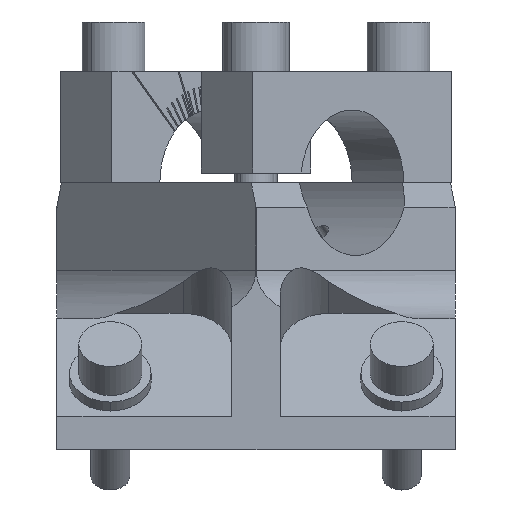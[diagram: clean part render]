
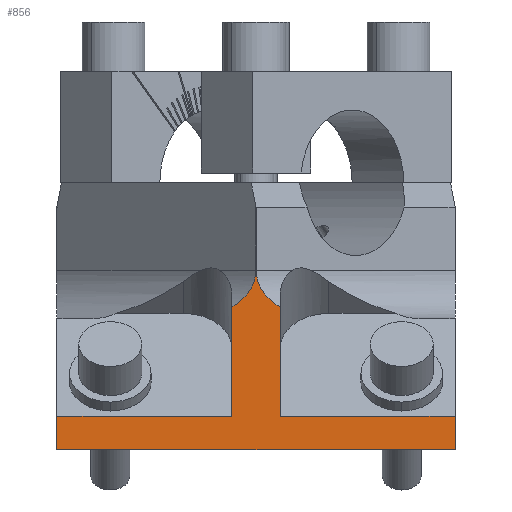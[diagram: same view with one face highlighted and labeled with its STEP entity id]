
A CAD part, left-side view. The second image highlights one B-rep face of the part: STEP entity #856.
In plain terms, the highlighted planar face has unit normal (-1, 0, 0).
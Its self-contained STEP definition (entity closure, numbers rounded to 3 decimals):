
#856=ADVANCED_FACE('Pad.1',(#2033),#2034,.T.);
#2033=FACE_OUTER_BOUND('',#3643,.T.);
#2034=PLANE('',#3644);
#3643=EDGE_LOOP('',(#5792,#5793,#5794,#5795,#5796,#5797,#5798,#5799,#5800,#5801,#5802,#5803,#5804));
#3644=AXIS2_PLACEMENT_3D('',#5805,#5806,#5807);
#5792=ORIENTED_EDGE('',*,*,#9695,.F.);
#5793=ORIENTED_EDGE('',*,*,#9696,.T.);
#5794=ORIENTED_EDGE('',*,*,#9551,.T.);
#5795=ORIENTED_EDGE('',*,*,#9697,.F.);
#5796=ORIENTED_EDGE('',*,*,#9698,.F.);
#5797=ORIENTED_EDGE('',*,*,#9630,.T.);
#5798=ORIENTED_EDGE('',*,*,#9693,.T.);
#5799=ORIENTED_EDGE('',*,*,#9644,.F.);
#5800=ORIENTED_EDGE('',*,*,#9699,.F.);
#5801=ORIENTED_EDGE('',*,*,#9700,.T.);
#5802=ORIENTED_EDGE('',*,*,#9544,.F.);
#5803=ORIENTED_EDGE('',*,*,#9701,.F.);
#5804=ORIENTED_EDGE('',*,*,#9702,.F.);
#5805=CARTESIAN_POINT('',(-39.646,42.311,-16.118));
#5806=DIRECTION('',(-1.0,0.,0.0));
#5807=DIRECTION('',(0.0,0.0,-1.0));
#9544=EDGE_CURVE('',#11422,#11425,#11426,.T.);
#9551=EDGE_CURVE('',#11432,#11436,#11438,.T.);
#9630=EDGE_CURVE('',#11574,#11572,#11575,.T.);
#9644=EDGE_CURVE('',#11594,#11596,#11597,.T.);
#9693=EDGE_CURVE('',#11572,#11596,#11667,.T.);
#9695=EDGE_CURVE('',#11669,#11670,#11671,.T.);
#9696=EDGE_CURVE('',#11669,#11432,#11672,.T.);
#9697=EDGE_CURVE('',#11673,#11436,#11674,.T.);
#9698=EDGE_CURVE('',#11574,#11673,#11675,.T.);
#9699=EDGE_CURVE('',#11676,#11594,#11677,.T.);
#9700=EDGE_CURVE('',#11676,#11425,#11678,.T.);
#9701=EDGE_CURVE('',#11679,#11422,#11680,.T.);
#9702=EDGE_CURVE('',#11670,#11679,#11681,.T.);
#11422=VERTEX_POINT('',#14412);
#11425=VERTEX_POINT('',#14416);
#11426=B_SPLINE_CURVE_WITH_KNOTS('',5,(#14417,#14418,#14419,#14420,#14421,#14422,#14423,#14424,#14425,#14426,#14427,#14428),.UNSPECIFIED.,.F.,.F.,(6,3,3,6),(0.0,4.5,8.13,13.484),.UNSPECIFIED.);
#11432=VERTEX_POINT('',#14453);
#11436=VERTEX_POINT('',#14469);
#11438=B_SPLINE_CURVE_WITH_KNOTS('',5,(#14479,#14480,#14481,#14482,#14483,#14484,#14485,#14486,#14487,#14488,#14489,#14490),.UNSPECIFIED.,.F.,.F.,(6,3,3,6),(0.0,4.501,8.131,13.476),.UNSPECIFIED.);
#11572=VERTEX_POINT('',#14911);
#11574=VERTEX_POINT('',#14914);
#11575=LINE('',#14915,#14916);
#11594=VERTEX_POINT('',#14961);
#11596=VERTEX_POINT('',#14964);
#11597=LINE('',#14965,#14966);
#11667=LINE('',#15087,#15088);
#11669=VERTEX_POINT('',#15090);
#11670=VERTEX_POINT('',#15091);
#11671=LINE('',#15092,#15093);
#11672=LINE('',#15094,#15095);
#11673=VERTEX_POINT('',#15096);
#11674=LINE('',#15097,#15098);
#11675=LINE('',#15099,#15100);
#11676=VERTEX_POINT('',#15101);
#11677=LINE('',#15102,#15103);
#11678=LINE('',#15104,#15105);
#11679=VERTEX_POINT('',#15106);
#11680=B_SPLINE_CURVE_WITH_KNOTS('',5,(#15107,#15108,#15109,#15110,#15111,#15112,#15113,#15114,#15115,#15116,#15117,#15118),.UNSPECIFIED.,.F.,.F.,(6,3,3,6),(0.0,4.5,8.13,13.484),.UNSPECIFIED.);
#11681=LINE('',#15119,#15120);
#14412=CARTESIAN_POINT('',(-39.646,1.298,14.));
#14416=CARTESIAN_POINT('',(-39.646,-3.689,6.378));
#14417=CARTESIAN_POINT('',(-39.646,1.298,14.006));
#14418=CARTESIAN_POINT('',(-39.646,1.299,13.369));
#14419=CARTESIAN_POINT('',(-39.646,1.228,12.733));
#14420=CARTESIAN_POINT('',(-39.646,1.085,12.108));
#14421=CARTESIAN_POINT('',(-39.646,0.71,11.015));
#14422=CARTESIAN_POINT('',(-39.646,0.149,10.007));
#14423=CARTESIAN_POINT('',(-39.646,-0.134,9.577));
#14424=CARTESIAN_POINT('',(-39.646,-0.905,8.564));
#14425=CARTESIAN_POINT('',(-39.646,-1.826,7.681));
#14426=CARTESIAN_POINT('',(-39.646,-2.417,7.201));
#14427=CARTESIAN_POINT('',(-39.646,-3.04,6.768));
#14428=CARTESIAN_POINT('',(-39.646,-3.689,6.378));
#14453=CARTESIAN_POINT('',(-39.646,1.323,14.));
#14469=CARTESIAN_POINT('',(-39.646,6.311,6.378));
#14479=CARTESIAN_POINT('',(-39.646,1.323,14.0));
#14480=CARTESIAN_POINT('',(-39.646,1.323,13.364));
#14481=CARTESIAN_POINT('',(-39.646,1.394,12.727));
#14482=CARTESIAN_POINT('',(-39.646,1.538,12.102));
#14483=CARTESIAN_POINT('',(-39.646,1.914,11.009));
#14484=CARTESIAN_POINT('',(-39.646,2.476,10.002));
#14485=CARTESIAN_POINT('',(-39.646,2.759,9.572));
#14486=CARTESIAN_POINT('',(-39.646,3.53,8.56));
#14487=CARTESIAN_POINT('',(-39.646,4.451,7.678));
#14488=CARTESIAN_POINT('',(-39.646,5.04,7.2));
#14489=CARTESIAN_POINT('',(-39.646,5.663,6.767));
#14490=CARTESIAN_POINT('',(-39.646,6.311,6.378));
#14911=CARTESIAN_POINT('',(-39.646,42.311,-23.0));
#14914=CARTESIAN_POINT('',(-39.646,42.311,-16.118));
#14915=CARTESIAN_POINT('',(-39.646,42.311,-19.559));
#14916=VECTOR('',#18594,1.0);
#14961=CARTESIAN_POINT('',(-39.646,-39.689,-16.118));
#14964=CARTESIAN_POINT('',(-39.646,-39.689,-23.0));
#14965=CARTESIAN_POINT('',(-39.646,-39.689,-19.559));
#14966=VECTOR('',#18605,1.0);
#15087=CARTESIAN_POINT('',(-39.646,1.311,-23.0));
#15088=VECTOR('',#18666,1.0);
#15090=CARTESIAN_POINT('',(-39.646,1.323,27.063));
#15091=CARTESIAN_POINT('',(-39.646,1.298,26.999));
#15092=CARTESIAN_POINT('',(-39.646,1.311,27.031));
#15093=VECTOR('',#18667,1.0);
#15094=CARTESIAN_POINT('',(-39.646,1.323,20.532));
#15095=VECTOR('',#18668,1.0);
#15096=CARTESIAN_POINT('',(-39.646,6.311,-16.118));
#15097=CARTESIAN_POINT('',(-39.646,6.311,-4.87));
#15098=VECTOR('',#18669,1.0);
#15099=CARTESIAN_POINT('',(-39.646,24.311,-16.118));
#15100=VECTOR('',#18670,1.0);
#15101=CARTESIAN_POINT('',(-39.646,-3.689,-16.118));
#15102=CARTESIAN_POINT('',(-39.646,-21.689,-16.118));
#15103=VECTOR('',#18671,1.0);
#15104=CARTESIAN_POINT('',(-39.646,-3.689,-4.87));
#15105=VECTOR('',#18672,1.0);
#15106=CARTESIAN_POINT('',(-39.646,1.298,14.006));
#15107=CARTESIAN_POINT('',(-39.646,1.298,14.006));
#15108=CARTESIAN_POINT('',(-39.646,1.299,13.369));
#15109=CARTESIAN_POINT('',(-39.646,1.228,12.733));
#15110=CARTESIAN_POINT('',(-39.646,1.085,12.108));
#15111=CARTESIAN_POINT('',(-39.646,0.71,11.015));
#15112=CARTESIAN_POINT('',(-39.646,0.149,10.007));
#15113=CARTESIAN_POINT('',(-39.646,-0.134,9.577));
#15114=CARTESIAN_POINT('',(-39.646,-0.905,8.564));
#15115=CARTESIAN_POINT('',(-39.646,-1.826,7.681));
#15116=CARTESIAN_POINT('',(-39.646,-2.417,7.201));
#15117=CARTESIAN_POINT('',(-39.646,-3.04,6.768));
#15118=CARTESIAN_POINT('',(-39.646,-3.689,6.378));
#15119=CARTESIAN_POINT('',(-39.646,1.298,20.502));
#15120=VECTOR('',#18673,1.0);
#18594=DIRECTION('',(0.0,0.0,-1.0));
#18605=DIRECTION('',(0.0,0.0,-1.0));
#18666=DIRECTION('',(0.,-1.0,0.0));
#18667=DIRECTION('',(0.,-0.354,-0.935));
#18668=DIRECTION('',(0.0,0.0,-1.0));
#18669=DIRECTION('',(0.0,0.0,1.0));
#18670=DIRECTION('',(0.,-1.0,0.0));
#18671=DIRECTION('',(0.,-1.0,0.0));
#18672=DIRECTION('',(0.0,0.0,1.0));
#18673=DIRECTION('',(0.0,0.,-1.0));
